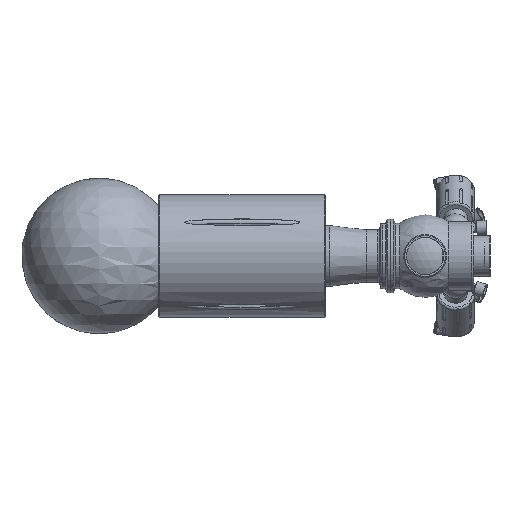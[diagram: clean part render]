
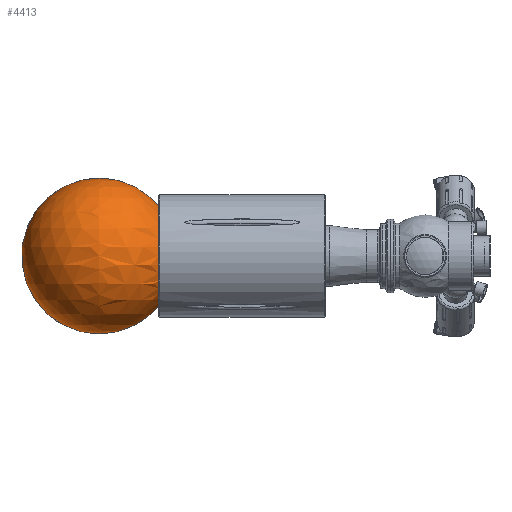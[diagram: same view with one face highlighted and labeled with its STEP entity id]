
A CAD part, left-side view. The second image highlights one B-rep face of the part: STEP entity #4413.
In plain terms, the highlighted spherical face has radius 72.5 mm.
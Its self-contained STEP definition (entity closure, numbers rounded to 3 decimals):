
#166=FACE_BOUND('',#1378,.T.);
#1119=FACE_OUTER_BOUND('',#1377,.T.);
#1377=EDGE_LOOP('',(#3579,#3580));
#1378=EDGE_LOOP('',(#3581));
#1702=CIRCLE('',#4998,72.5);
#1703=CIRCLE('',#4999,46.648);
#2065=VERTEX_POINT('',#7878);
#2066=VERTEX_POINT('',#7879);
#2067=VERTEX_POINT('',#7881);
#2621=EDGE_CURVE('',#2065,#2066,#1702,.T.);
#2622=EDGE_CURVE('',#2067,#2067,#1703,.T.);
#3579=ORIENTED_EDGE('',*,*,#2621,.T.);
#3580=ORIENTED_EDGE('',*,*,#2621,.F.);
#3581=ORIENTED_EDGE('',*,*,#2622,.F.);
#4304=SPHERICAL_SURFACE('',#4997,72.5);
#4413=ADVANCED_FACE('',(#1119,#166),#4304,.T.);
#4997=AXIS2_PLACEMENT_3D('',#7877,#5910,#5911);
#4998=AXIS2_PLACEMENT_3D('',#7880,#5912,#5913);
#4999=AXIS2_PLACEMENT_3D('',#7882,#5914,#5915);
#5910=DIRECTION('center_axis',(0.,0.,1.));
#5911=DIRECTION('ref_axis',(1.,0.,0.));
#5912=DIRECTION('center_axis',(0.,-1.,0.));
#5913=DIRECTION('ref_axis',(-1.,0.,0.));
#5914=DIRECTION('center_axis',(0.,-1.,0.));
#5915=DIRECTION('ref_axis',(1.,0.,0.));
#7877=CARTESIAN_POINT('Origin',(150.,266.5,0.));
#7878=CARTESIAN_POINT('',(150.,266.5,72.5));
#7879=CARTESIAN_POINT('',(150.,266.5,-72.5));
#7880=CARTESIAN_POINT('Origin',(150.,266.5,0.));
#7881=CARTESIAN_POINT('',(196.648,211.,0.));
#7882=CARTESIAN_POINT('Origin',(150.,211.,0.));
